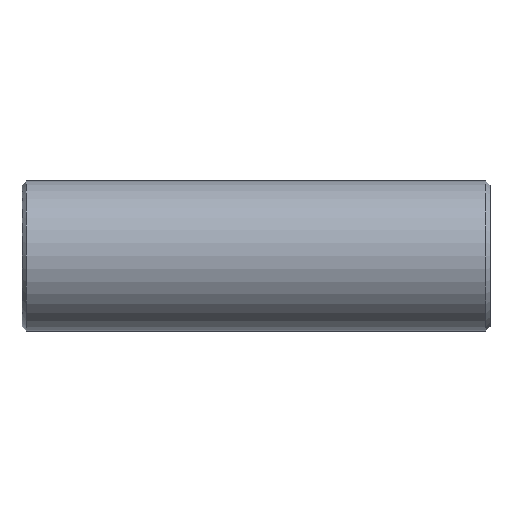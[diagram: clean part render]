
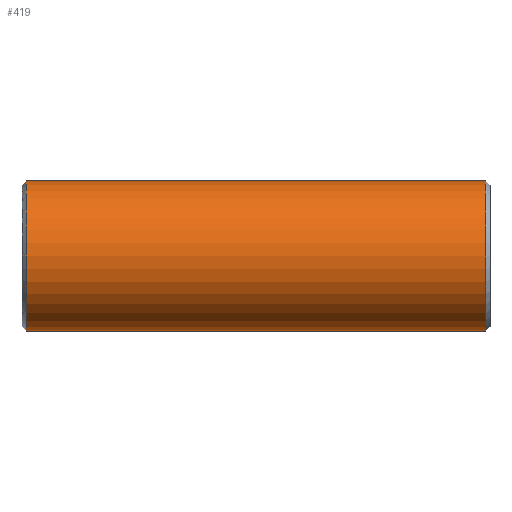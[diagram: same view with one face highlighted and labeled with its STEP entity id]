
A CAD part, front view. The second image highlights one B-rep face of the part: STEP entity #419.
In plain terms, the highlighted cylindrical face has radius 17 mm (diameter 34 mm), a partial arc.
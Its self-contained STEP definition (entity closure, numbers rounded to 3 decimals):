
#231=CARTESIAN_POINT('Vertex',(1.,0.,-17.)) ;
#238=CARTESIAN_POINT('Vertex',(1.,0.,17.)) ;
#267=CARTESIAN_POINT('Axis2P3D Location',(1.,0.,0.)) ;
#271=CARTESIAN_POINT('Vertex',(1.,-17.,0.)) ;
#274=CARTESIAN_POINT('Axis2P3D Location',(1.,0.,0.)) ;
#359=CARTESIAN_POINT('Line Origine',(106.,0.,17.)) ;
#363=CARTESIAN_POINT('Vertex',(105.,0.,17.)) ;
#377=CARTESIAN_POINT('Vertex',(105.,0.,-17.)) ;
#380=CARTESIAN_POINT('Line Origine',(106.,0.,-17.)) ;
#394=CARTESIAN_POINT('Axis2P3D Location',(106.,0.,0.)) ;
#399=CARTESIAN_POINT('Axis2P3D Location',(105.,0.,0.)) ;
#403=CARTESIAN_POINT('Vertex',(105.,-17.,0.)) ;
#406=CARTESIAN_POINT('Axis2P3D Location',(105.,0.,0.)) ;
#268=DIRECTION('Axis2P3D Direction',(1.,0.,-0.)) ;
#275=DIRECTION('Axis2P3D Direction',(1.,0.,-0.)) ;
#360=DIRECTION('Vector Direction',(-1.,0.,0.)) ;
#381=DIRECTION('Vector Direction',(-1.,0.,0.)) ;
#395=DIRECTION('Axis2P3D Direction',(-1.,-0.,-0.)) ;
#396=DIRECTION('Axis2P3D XDirection',(0.,0.,-1.)) ;
#400=DIRECTION('Axis2P3D Direction',(-1.,-0.,-0.)) ;
#407=DIRECTION('Axis2P3D Direction',(-1.,-0.,-0.)) ;
#269=AXIS2_PLACEMENT_3D('Circle Axis2P3D',#267,#268,$) ;
#276=AXIS2_PLACEMENT_3D('Circle Axis2P3D',#274,#275,$) ;
#397=AXIS2_PLACEMENT_3D('Cylinder Axis2P3D',#394,#395,#396) ;
#401=AXIS2_PLACEMENT_3D('Circle Axis2P3D',#399,#400,$) ;
#408=AXIS2_PLACEMENT_3D('Circle Axis2P3D',#406,#407,$) ;
#412=ORIENTED_EDGE('',*,*,#384,.T.) ;
#413=ORIENTED_EDGE('',*,*,#405,.F.) ;
#414=ORIENTED_EDGE('',*,*,#410,.F.) ;
#415=ORIENTED_EDGE('',*,*,#365,.T.) ;
#416=ORIENTED_EDGE('',*,*,#278,.T.) ;
#417=ORIENTED_EDGE('',*,*,#273,.T.) ;
#361=VECTOR('Line Direction',#360,1.) ;
#382=VECTOR('Line Direction',#381,1.) ;
#419=ADVANCED_FACE('352-25X106',(#418),#398,.T.) ;
#270=CIRCLE('generated circle',#269,17.) ;
#277=CIRCLE('generated circle',#276,17.) ;
#402=CIRCLE('generated circle',#401,17.) ;
#409=CIRCLE('generated circle',#408,17.) ;
#398=CYLINDRICAL_SURFACE('generated cylinder',#397,17.) ;
#273=EDGE_CURVE('',#272,#232,#270,.T.) ;
#278=EDGE_CURVE('',#239,#272,#277,.T.) ;
#365=EDGE_CURVE('',#364,#239,#362,.T.) ;
#384=EDGE_CURVE('',#232,#378,#383,.F.) ;
#405=EDGE_CURVE('',#404,#378,#402,.F.) ;
#410=EDGE_CURVE('',#364,#404,#409,.F.) ;
#411=EDGE_LOOP('',(#412,#413,#414,#415,#416,#417)) ;
#418=FACE_OUTER_BOUND('',#411,.T.) ;
#362=LINE('Line',#359,#361) ;
#383=LINE('Line',#380,#382) ;
#232=VERTEX_POINT('',#231) ;
#239=VERTEX_POINT('',#238) ;
#272=VERTEX_POINT('',#271) ;
#364=VERTEX_POINT('',#363) ;
#378=VERTEX_POINT('',#377) ;
#404=VERTEX_POINT('',#403) ;
